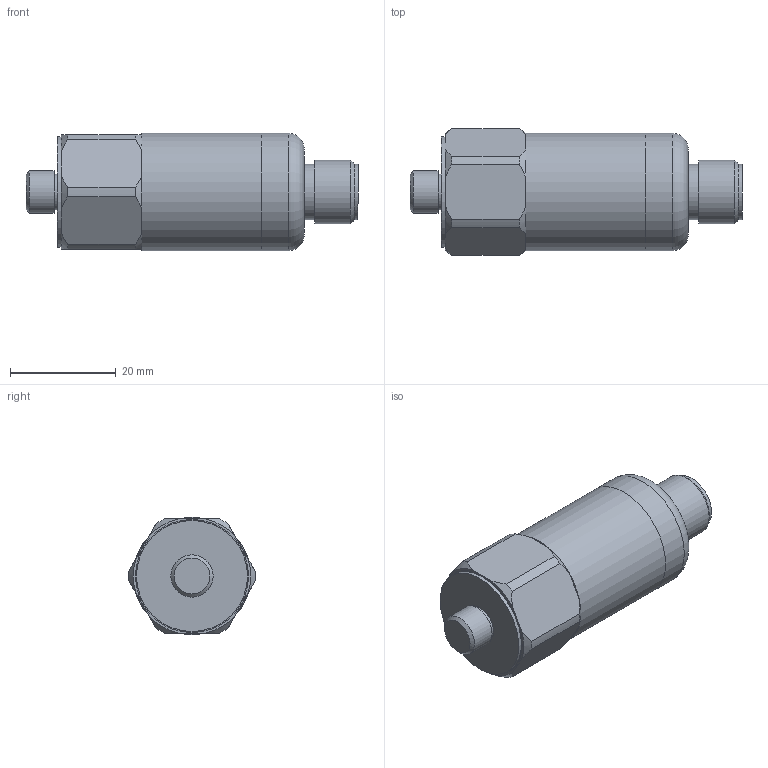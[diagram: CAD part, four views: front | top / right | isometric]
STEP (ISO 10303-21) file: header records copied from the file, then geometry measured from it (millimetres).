
FILE_DESCRIPTION(/* description */ (''),/* implementation_level */ '2;1');
FILE_NAME(/* name */ 'Z:\Engineering\Drawings\3D Library\Assemblies\Website\Premium Top\HS-150 Top M12\HS-150XXX5408.stp',/* time_stamp */ '2023-03-12T11:21:21+00:00',/* author */ ('Ricardo.Peneda'),/* organization */ (''),/* preprocessor_version */ 'ST-DEVELOPER v18.1',/* originating_system */ 'Autodesk Inventor 2021',/* authorisation */ '');
FILE_SCHEMA (('AUTOMOTIVE_DESIGN { 1 0 10303 214 3 1 1 }'));
Length unit declared in the file: inch
Products named in the file (1): HS-150XXX5408_Shrinkwrap_1
Bounding box: 62.84 x 23.99 x 22.2 mm (x, y, z)
Volume: 13302.7 mm3; surface area: 7481.9 mm2
Topology: 3 solids, 3 shells, 71 faces, 184 edges, 134 vertices
Faces by surface type: plane 33, cylinder 25, cone 12, torus 1
Full cylindrical faces by diameter (mm): 5 x1, 5.359 x1, 6.35 x1, 6.8 x1, 7 x1, 7.5 x1, 8 x1, 9.4 x2, 10.496 x1, 10.5 x1, 12 x1, 15.055 x1, 18 x1, 19.95 x1, 20 x1, 21 x1, 22.2 x2
Entity records: 2363 total; most frequent: CARTESIAN_POINT 437, DIRECTION 413, ORIENTED_EDGE 366, EDGE_CURVE 183, AXIS2_PLACEMENT_3D 182, VERTEX_POINT 134, CIRCLE 110, EDGE_LOOP 87
